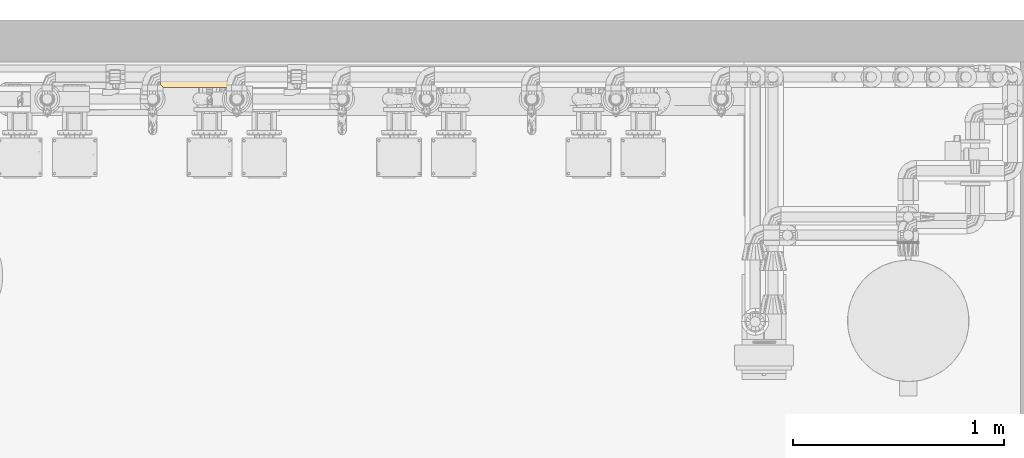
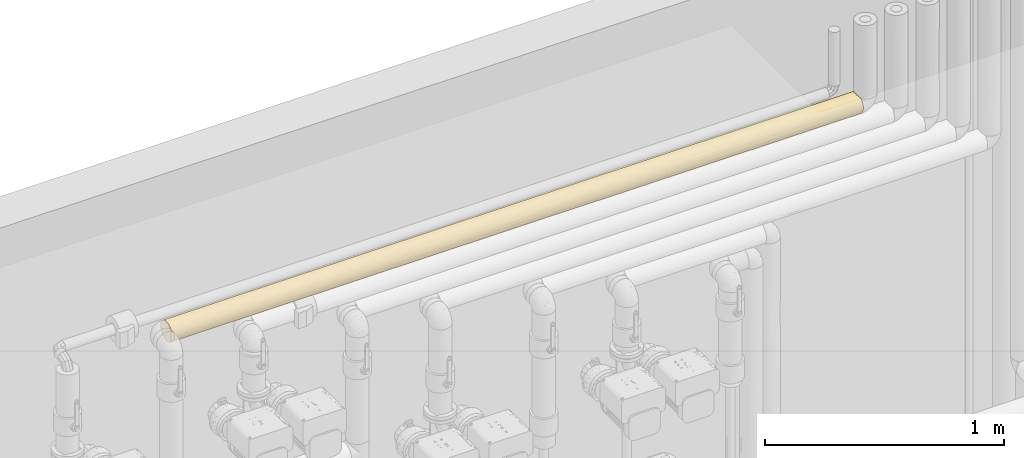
# One storey, part 4 of 94: 1 covering.
"""IFC2X3 building model written with IfcOpenShell, lengths in millimetres."""

from ifc_helpers import new_model, entity, si_unit, converted_unit, derived_unit, direction, frame, origin, place, context, subcontext, project, spatial, faceted_brep, material, element, save


model = new_model("IFC2X3")

# Units and contexts
model_context = context("Model", 3, precision=0.01, world=origin(), true_north=direction((6.123031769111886e-17, 1.0)))
body_context = subcontext(model_context, "Body", "Model", "MODEL_VIEW")
ifc_project = project(units=[si_unit("LENGTHUNIT", "METRE", prefix="MILLI"), si_unit("AREAUNIT", "SQUARE_METRE"), si_unit("VOLUMEUNIT", "CUBIC_METRE"), converted_unit("PLANEANGLEUNIT", "DEGREE", entity("IfcRatioMeasure", 0.017453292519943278), si_unit("PLANEANGLEUNIT", "RADIAN"), dimensions=[0, 0, 0, 0, 0, 0, 0]), si_unit("MASSUNIT", "GRAM", prefix="KILO"), derived_unit("MASSDENSITYUNIT", [(si_unit("MASSUNIT", "GRAM", prefix="KILO"), 1), (si_unit("LENGTHUNIT", "METRE"), -3)]), derived_unit("IONCONCENTRATIONUNIT", [(si_unit("MASSUNIT", "GRAM", prefix="KILO"), 1), (si_unit("LENGTHUNIT", "METRE"), -3)]), derived_unit("MOMENTOFINERTIAUNIT", [(si_unit("LENGTHUNIT", "METRE"), 4)]), si_unit("TIMEUNIT", "SECOND"), si_unit("FREQUENCYUNIT", "HERTZ"), si_unit("THERMODYNAMICTEMPERATUREUNIT", "DEGREE_CELSIUS"), derived_unit("THERMALTRANSMITTANCEUNIT", [(si_unit("MASSUNIT", "GRAM", prefix="KILO"), 1), (si_unit("THERMODYNAMICTEMPERATUREUNIT", "KELVIN"), -1), (si_unit("TIMEUNIT", "SECOND"), -3)]), derived_unit("THERMALCONDUCTANCEUNIT", [(si_unit("MASSUNIT", "GRAM", prefix="KILO"), 1), (si_unit("THERMODYNAMICTEMPERATUREUNIT", "KELVIN"), -1), (si_unit("TIMEUNIT", "SECOND"), -3), (si_unit("LENGTHUNIT", "METRE"), 1)]), derived_unit("VOLUMETRICFLOWRATEUNIT", [(si_unit("LENGTHUNIT", "METRE"), 3), (si_unit("TIMEUNIT", "SECOND"), -1)]), derived_unit("MASSFLOWRATEUNIT", [(si_unit("MASSUNIT", "GRAM", prefix="KILO"), 1), (si_unit("TIMEUNIT", "SECOND"), -1)]), derived_unit("ROTATIONALFREQUENCYUNIT", [(si_unit("TIMEUNIT", "SECOND"), -1)]), si_unit("ELECTRICCURRENTUNIT", "AMPERE"), si_unit("ELECTRICVOLTAGEUNIT", "VOLT"), si_unit("POWERUNIT", "WATT"), si_unit("FORCEUNIT", "NEWTON", prefix="KILO"), si_unit("ILLUMINANCEUNIT", "LUX"), si_unit("LUMINOUSFLUXUNIT", "LUMEN"), si_unit("LUMINOUSINTENSITYUNIT", "CANDELA"), derived_unit("USERDEFINED", [(si_unit("MASSUNIT", "GRAM", prefix="KILO"), -1), (si_unit("LENGTHUNIT", "METRE"), -2), (si_unit("TIMEUNIT", "SECOND"), 3), (si_unit("LUMINOUSFLUXUNIT", "LUMEN"), 1)]), derived_unit("USERDEFINED", [(si_unit("MASSUNIT", "GRAM", prefix="KILO"), 1), (si_unit("TIMEUNIT", "SECOND"), -3), (si_unit("LENGTHUNIT", "METRE"), 3), (si_unit("ELECTRICCURRENTUNIT", "AMPERE"), -2)]), derived_unit("SOUNDPOWERUNIT", [(si_unit("MASSUNIT", "GRAM", prefix="KILO"), 1), (si_unit("TIMEUNIT", "SECOND"), -3), (si_unit("LENGTHUNIT", "METRE"), 2)]), derived_unit("SOUNDPRESSUREUNIT", [(si_unit("MASSUNIT", "GRAM", prefix="KILO"), 1), (si_unit("LENGTHUNIT", "METRE"), -1), (si_unit("TIMEUNIT", "SECOND"), -2)]), derived_unit("LINEARVELOCITYUNIT", [(si_unit("LENGTHUNIT", "METRE"), 1), (si_unit("TIMEUNIT", "SECOND"), -1)]), si_unit("PRESSUREUNIT", "PASCAL"), derived_unit("USERDEFINED", [(si_unit("MASSUNIT", "GRAM", prefix="KILO"), 1), (si_unit("LENGTHUNIT", "METRE"), -2), (si_unit("TIMEUNIT", "SECOND"), -2)]), derived_unit("LINEARFORCEUNIT", [(si_unit("MASSUNIT", "GRAM", prefix="KILO"), 1), (si_unit("TIMEUNIT", "SECOND"), -2)]), derived_unit("PLANARFORCEUNIT", [(si_unit("MASSUNIT", "GRAM", prefix="KILO"), 1), (si_unit("LENGTHUNIT", "METRE"), -1), (si_unit("TIMEUNIT", "SECOND"), -2)]), derived_unit("SPECIFICHEATCAPACITYUNIT", [(si_unit("THERMODYNAMICTEMPERATUREUNIT", "KELVIN"), -1), (si_unit("LENGTHUNIT", "METRE"), 2), (si_unit("TIMEUNIT", "SECOND"), -2)]), derived_unit("HEATINGVALUEUNIT", [(si_unit("LENGTHUNIT", "METRE"), 2), (si_unit("TIMEUNIT", "SECOND"), -2)]), derived_unit("VAPORPERMEABILITYUNIT", [(si_unit("LENGTHUNIT", "METRE"), -1), (si_unit("TIMEUNIT", "SECOND"), 1)]), derived_unit("DYNAMICVISCOSITYUNIT", [(si_unit("MASSUNIT", "GRAM", prefix="KILO"), 1), (si_unit("TIMEUNIT", "SECOND"), -1), (si_unit("LENGTHUNIT", "METRE"), -1)]), derived_unit("THERMALEXPANSIONCOEFFICIENTUNIT", [(si_unit("THERMODYNAMICTEMPERATUREUNIT", "KELVIN"), -1)]), derived_unit("MODULUSOFELASTICITYUNIT", [(si_unit("MASSUNIT", "GRAM", prefix="KILO"), 1), (si_unit("LENGTHUNIT", "METRE"), -1), (si_unit("TIMEUNIT", "SECOND"), -2)]), derived_unit("ISOTHERMALMOISTURECAPACITYUNIT", [(si_unit("LENGTHUNIT", "METRE"), 3), (si_unit("MASSUNIT", "GRAM", prefix="KILO"), -1)]), derived_unit("MOISTUREDIFFUSIVITYUNIT", [(si_unit("TIMEUNIT", "SECOND"), -1), (si_unit("LENGTHUNIT", "METRE"), 2)])], contexts=[model_context])

# Site, building, storey
site_placement = place(None, origin())
site = spatial("IfcSite", under=ifc_project, at=site_placement, Name="Default", CompositionType="ELEMENT")
building_placement = place(site_placement, origin())
building = spatial("IfcBuilding", under=site, at=building_placement, CompositionType="ELEMENT")
storey_placement = place(building_placement, origin())
storey = spatial("IfcBuildingStorey", under=building, at=storey_placement, Name="Niveau 0", CompositionType="ELEMENT", Elevation=0.0)

# Covering
ifc_material = material(Name="Isolation - Laine minérale")
covering_placement = place(storey_placement, frame((-9835.741137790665, 9976.120352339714, 2799.274727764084)))
element("IfcCovering", 1, at=covering_placement, inside=storey, material=ifc_material, Name="Isolation des canalisations:Laine minérale", ObjectType="Isolation des canalisations:Laine minérale", PredefinedType="INSULATION", context=body_context, shape_type="Brep", body=[
    faceted_brep([(1.5952722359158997, 29.696487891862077, 6.323164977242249), (1.5952722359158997, 20.474956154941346, 12.012544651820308), (1.5952722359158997, 12.725272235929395, 19.584352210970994), (1.5952722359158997, 12.72527223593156, 81.86619226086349), (1.5952722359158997, 20.47495615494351, 89.43799982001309), (1.5952722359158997, 29.69648789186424, 95.12737949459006), (1.5952722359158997, 39.94049838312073, 98.65694811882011), (1.5952722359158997, 50.72527223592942, 99.85527223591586), (1.5952722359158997, 63.441051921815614, 98.18120808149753), (1.5952722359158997, 75.2902722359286, 93.27310032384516), (1.5952722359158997, 85.46542839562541, 85.4654283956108), (1.5952722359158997, 93.2731003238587, 75.29027223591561), (1.5952722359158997, 98.1812080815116, 63.44105192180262), (1.5952722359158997, 99.85527223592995, 50.72527223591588), (1.5952722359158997, 98.1812080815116, 38.00949255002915), (1.5952722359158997, 93.2731003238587, 26.160272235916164), (1.5952722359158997, 85.46542839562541, 15.985116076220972), (1.5952722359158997, 75.2902722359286, 8.177444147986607), (1.5952722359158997, 63.441051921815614, 3.26933639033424), (1.5952722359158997, 50.72527223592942, 1.5952722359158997), (1.5952722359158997, 39.94049838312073, 2.7935963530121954), (3338.5688247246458, 2.7935963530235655, 61.51004608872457), (3338.5688247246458, 1.5952722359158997, 50.72527223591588), (3338.5688247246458, 3.26933639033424, 38.00949255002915), (3338.5688247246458, 8.17744414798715, 26.16027223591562), (3338.5688247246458, 15.98511607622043, 15.985116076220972), (3338.5688247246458, 26.160272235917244, 8.177444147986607), (3338.5688247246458, 38.00949255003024, 3.2693363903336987), (3338.5688247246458, 50.72527223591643, 1.5952722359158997), (3338.5688247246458, 63.44105192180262, 3.26933639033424), (3338.5688247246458, 75.29027223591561, 8.177444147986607), (3338.5688247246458, 85.46542839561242, 15.985116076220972), (3338.5688247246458, 93.2731003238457, 26.160272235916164), (3338.5688247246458, 98.18120808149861, 38.00949255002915), (3338.5688247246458, 99.85527223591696, 50.72527223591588), (3338.5688247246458, 98.65694811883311, 61.5100460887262), (3338.5688247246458, 95.12737949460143, 71.75405657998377), (3338.5688247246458, 89.43799982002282, 80.97558831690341), (3338.5688247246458, 81.86619226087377, 88.72527223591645), (3338.5688247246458, 19.58435221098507, 88.72527223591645), (3338.5688247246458, 12.012544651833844, 80.97558831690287), (3338.5688247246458, 6.323164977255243, 71.75405657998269), (3049.218586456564, 69.52650923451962, 5.335070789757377), (3048.2288996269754, 59.13420623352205, 2.320244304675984), (2757.153778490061, 60.14398863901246, 2.5065551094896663), (840.2322503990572, 97.26385889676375, 34.979896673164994), (536.7522922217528, 96.11547355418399, 31.924034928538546), (587.213383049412, 98.95023883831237, 41.33860636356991), (3093.825531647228, 50.72527223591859, 1.5952722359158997), (2849.0822126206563, 50.72527223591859, 1.5952722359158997), (368.78493825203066, 89.70272175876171, 20.81682311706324), (3005.0753906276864, 89.70272182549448, 20.816823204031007), (245.82576684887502, 80.63372119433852, 11.747822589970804), (235.97006200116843, 96.11547361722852, 31.92403508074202), (374.41239707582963, 69.52650921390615, 5.3350707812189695), (2532.348096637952, 80.35863352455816, 11.538274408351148), (2413.4616365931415, 89.7027217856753, 20.816823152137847), (2709.26851371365, 91.46149100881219, 23.260433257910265), (2019.5798214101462, 62.167778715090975, 2.9463443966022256), (2359.5956005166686, 50.725272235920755, 1.5952722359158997), (1959.5419535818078, 50.725272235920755, 1.5952722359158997), (1870.1089884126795, 50.725272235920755, 1.5952722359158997), (2041.38201980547, 91.07935113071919, 22.701974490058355), (2048.342965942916, 95.8591244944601, 31.316710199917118), (3112.640374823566, 96.11547366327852, 31.92403519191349), (782.9179953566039, 64.51190414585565, 3.5693003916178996), (935.8521303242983, 50.72527223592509, 1.5952722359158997), (491.0818843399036, 50.72527223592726, 1.5952722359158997), (368.71026440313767, 59.86765697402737, 2.4533994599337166), (295.20277996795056, 99.10532057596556, 42.17379150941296), (2937.23254450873, 80.63372120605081, 11.747822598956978), (2849.0821676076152, 99.85527223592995, 50.72527223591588), (3043.8225824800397, 99.09651670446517, 42.12413227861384), (2749.3217440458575, 98.94149675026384, 41.29380397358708), (2123.5769078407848, 82.65274810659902, 13.383697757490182), (2287.075813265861, 70.42681749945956, 5.718539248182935), (1878.3046240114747, 73.08737199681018, 6.9794907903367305), (554.3495773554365, 80.63372114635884, 11.747822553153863), (684.5706806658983, 91.40382509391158, 23.17509551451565), (933.7189152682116, 80.72957213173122, 11.821559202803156), (1625.365533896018, 62.325218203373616, 2.9843238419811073), (246.34140633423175, 99.85527223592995, 50.72527223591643), (491.08192935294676, 99.85527223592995, 50.72527223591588), (1380.6221962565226, 99.85527223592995, 50.72527223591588), (1375.073092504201, 98.92696237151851, 41.219801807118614), (935.8520628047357, 99.85527223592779, 50.72527223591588), (2571.043632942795, 97.22890745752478, 34.87696598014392), (2306.9713773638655, 97.19786237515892, 34.786161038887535), (246.33839586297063, 50.72527223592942, 1.5952722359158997), (2703.875327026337, 69.52650919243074, 5.335070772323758), (2818.3920601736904, 96.11547365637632, 31.92403517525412), (1281.8378147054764, 81.95384252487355, 12.797270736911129), (1178.644833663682, 72.35042495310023, 6.610539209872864), (1158.2371365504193, 60.579850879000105, 2.593742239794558), (1380.6223763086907, 50.72527223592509, 1.5952722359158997), (980.5687812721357, 50.72527223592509, 1.5952722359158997), (912.4916254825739, 71.9246761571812, 6.404372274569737), (647.0912315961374, 72.67067796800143, 6.768974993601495), (2315.989209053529, 60.75953024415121, 2.6308799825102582), (1600.0998047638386, 85.6878970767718, 16.20901861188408), (1589.1398353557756, 91.82279006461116, 23.804073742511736), (1470.0553674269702, 50.72527223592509, 1.5952722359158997), (1870.1088533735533, 99.85527223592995, 50.72527223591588), (1676.4780562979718, 98.91530326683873, 41.1608690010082), (1836.1909800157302, 81.3472658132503, 12.30587076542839), (1768.949979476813, 95.49049837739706, 30.480978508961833), (2014.0562347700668, 98.74824770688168, 40.354605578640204), (1528.0867202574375, 73.06178631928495, 6.966421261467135), (1325.3915902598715, 89.58935501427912, 20.6696576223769), (2404.311927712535, 50.725272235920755, 1.5952722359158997), (1460.4306106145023, 96.34678949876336, 32.49249782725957), (2359.5955104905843, 99.85527223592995, 50.72527223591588), (1000.3564220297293, 89.70272168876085, 20.816823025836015), (1158.2371432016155, 97.38872868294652, 35.35391144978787), (2971.453833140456, 41.58303115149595, 2.4533722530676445), (2966.19414724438, 31.924035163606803, 5.3350708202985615), (3104.1940349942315, 5.335070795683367, 31.924035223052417), (6.355463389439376, 7.96508108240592, 26.5318236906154), (475.06451646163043, 6.143239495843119, 30.0806783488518), (9.859172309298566, 4.46137216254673, 34.19020495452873), (880.5691787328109, 3.809630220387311, 36.141739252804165), (883.7993462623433, 10.525552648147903, 22.480990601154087), (349.1927970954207, 2.7016734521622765, 40.35749234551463), (502.2118315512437, 1.5952722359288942, 50.72527223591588), (12.725272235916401, 1.5952722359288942, 50.72527223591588), (3044.9613154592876, 2.345223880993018, 42.17379159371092), (2803.4118070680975, 5.335070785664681, 31.92403524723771), (1225.8351742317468, 8.74583467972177, 25.201093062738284), (1284.2080402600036, 15.38333559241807, 16.597506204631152), (1540.961265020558, 10.17618083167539, 22.984902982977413), (2971.379158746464, 11.747822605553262, 20.81682325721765), (802.2732795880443, 37.30077678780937, 3.4649313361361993), (621.6573521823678, 24.92839651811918, 8.912856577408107), (372.8854164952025, 34.72089515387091, 4.275118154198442), (293.69353597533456, 24.928477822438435, 8.912806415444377), (3093.826593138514, 1.5952722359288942, 50.72527223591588), (2849.0822654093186, 1.5952722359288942, 50.72527223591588), (12.003444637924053, 2.3170998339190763, 42.334459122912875), (1060.5561201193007, 26.111086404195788, 8.205879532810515), (537.0502443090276, 11.046301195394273, 21.75397338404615), (257.53322257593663, 10.290426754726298, 22.81863913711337), (372.8840652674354, 16.390749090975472, 15.584164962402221), (641.1809510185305, 2.398563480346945, 41.877327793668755), (2540.3281563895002, 2.871090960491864, 39.601683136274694), (2321.8945841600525, 5.759657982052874, 30.930059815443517), (698.4412093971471, 16.43661370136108, 15.539411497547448), (993.4294013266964, 16.590570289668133, 15.390034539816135), (2556.960151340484, 36.91886892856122, 3.5750853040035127), (3095.0981582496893, 20.816823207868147, 11.74782264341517), (1364.0246132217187, 4.447885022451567, 34.227989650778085), (991.6983908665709, 1.5952722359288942, 50.72527223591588), (2170.9848487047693, 28.783552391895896, 6.767134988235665), (2413.0963497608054, 20.56077371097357, 11.945639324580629), (2084.757949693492, 19.67401699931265, 12.651968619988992), (1970.6715094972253, 1.5952722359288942, 50.72527223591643), (2190.2744619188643, 2.5029611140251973, 41.32497383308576), (2409.8768874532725, 1.5952722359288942, 50.72527223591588), (2657.1178108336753, 10.03373228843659, 23.194281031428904), (2787.175486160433, 20.816823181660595, 11.747822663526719), (1841.1073849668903, 26.327820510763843, 8.08114896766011), (1714.7985680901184, 38.355221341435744, 3.178045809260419), (2181.926964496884, 40.68581691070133, 2.6319646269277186), (2594.121591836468, 27.469915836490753, 7.447734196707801), (1501.2949108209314, 26.21732771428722, 8.144554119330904), (1231.9687097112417, 38.57819030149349, 3.120594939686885), (1559.6657217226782, 18.151898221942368, 13.945764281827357), (1889.8396254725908, 9.202084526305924, 24.465383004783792), (1821.7551671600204, 14.7176678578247, 17.300590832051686), (2081.707772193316, 13.140767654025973, 19.08412947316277), (1910.6318407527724, 2.476327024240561, 41.46264917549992), (1668.7509421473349, 4.093375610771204, 35.25843296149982), (1962.6174298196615, 5.1087231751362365, 32.48007144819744), (2786.585094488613, 2.337832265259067, 42.215715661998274), (2342.856462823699, 11.747822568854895, 20.816823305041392), (1481.184950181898, 1.5952722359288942, 50.72527223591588), (2976.06470919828, 4.275118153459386, 66.7296493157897), (349.1927969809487, 2.701673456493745, 61.09305214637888), (9.859172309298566, 4.46137216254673, 67.26033951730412), (12.003444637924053, 2.3170998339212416, 59.116085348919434), (698.4412084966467, 16.436613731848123, 85.91113300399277), (621.6573510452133, 24.92839655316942, 92.53768791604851), (372.88406483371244, 16.390749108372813, 85.86637952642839), (2056.0901809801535, 42.0065785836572, 99.07546645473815), (2348.4667708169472, 50.725272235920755, 99.85527223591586), (1858.9791202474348, 50.72527223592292, 99.85527223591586), (1369.49146967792, 50.72527223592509, 99.85527223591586), (1614.2355345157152, 42.0065785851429, 99.07546645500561), (372.88541565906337, 34.72089518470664, 97.17542632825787), (3333.8086335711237, 26.531823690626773, 93.48546338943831), (2963.8700148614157, 22.7544586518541, 91.11574744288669), (2190.2744613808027, 2.1823126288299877, 58.29745637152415), (1842.4210985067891, 3.289321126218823, 63.51540289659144), (2900.684889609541, 14.654071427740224, 84.08131175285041), (2740.6069866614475, 8.912856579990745, 76.52214795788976), (2393.2548375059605, 9.318440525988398, 77.16825216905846), (2577.454871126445, 3.760863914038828, 65.15098715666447), (289.54073042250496, 24.928478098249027, 92.53773822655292), (883.7993452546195, 10.525552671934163, 78.96955390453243), (475.06451613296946, 6.14323950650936, 71.36986614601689), (880.5691783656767, 3.8096302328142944, 65.3088052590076), (2591.925865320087, 18.668203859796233, 87.9556532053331), (2657.217471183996, 29.989501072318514, 95.26497019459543), (2987.3301441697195, 33.10054900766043, 96.5851242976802), (3330.3049246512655, 34.190204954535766, 96.98917230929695), (2352.291422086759, 37.6542002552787, 98.0845794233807), (2742.5337412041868, 40.15484762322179, 98.70467431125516), (641.1809509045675, 2.398563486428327, 59.5732167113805), (895.4819827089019, 28.08180394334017, 94.32607777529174), (1116.751392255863, 19.462002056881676, 88.6246764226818), (1206.8055118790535, 2.5630227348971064, 60.42860274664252), (1461.91328855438, 2.370401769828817, 59.417993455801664), (1484.8498109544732, 4.66774349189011, 67.82676181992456), (491.07967557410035, 50.72527223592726, 99.85527223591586), (257.5332224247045, 10.29042676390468, 78.63190534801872), (537.0502439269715, 11.046301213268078, 79.69657111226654), (3082.6982466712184, 50.72527223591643, 99.85527223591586), (3007.216167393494, 41.930825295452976, 99.06174503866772), (3328.1606523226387, 42.33445912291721, 99.13344463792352), (6.355463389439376, 7.96508108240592, 74.91872078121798), (768.5571233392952, 36.438222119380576, 97.73204939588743), (1858.978861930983, 33.56465625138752, 96.76080372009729), (2299.031496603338, 25.632446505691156, 92.96396299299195), (3060.7627924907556, 8.91285656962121, 76.5221479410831), (1024.3869446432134, 41.305040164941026, 98.94369327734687), (930.2839490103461, 50.72527223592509, 99.85527223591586), (1317.2575714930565, 40.73883770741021, 98.8296174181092), (1494.9943517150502, 33.83836133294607, 96.86190778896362), (1304.5001489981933, 10.7263384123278, 79.25319177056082), (2209.9521400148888, 15.584164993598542, 85.05979541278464), (2079.9777586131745, 9.515178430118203, 77.47382487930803), (1937.1890610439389, 22.40717476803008, 90.87302753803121), (2190.2744609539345, 4.955486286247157, 68.58258429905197), (1154.7841132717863, 5.874606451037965, 70.77956550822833), (1673.2325242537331, 18.11023293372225, 87.46783762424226), (1514.7801650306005, 25.394473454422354, 92.82167983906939), (1393.778269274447, 18.446547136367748, 87.76364161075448), (1149.8896372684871, 32.63648095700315, 96.40406961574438), (1758.89919835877, 11.27826650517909, 80.01162808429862), (1858.495044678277, 6.641454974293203, 72.41337855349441), (3327.4388247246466, 50.72527223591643, 99.85527223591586), (2837.954421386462, 50.72527223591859, 99.85527223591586), (2967.2786815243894, 97.17542633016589, 66.72964928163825), (2718.506746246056, 92.5376879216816, 76.52214790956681), (3046.470561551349, 92.53773807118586, 76.5220666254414), (2967.2800324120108, 85.86637953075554, 85.05979535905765), (2641.722888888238, 85.91113300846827, 85.01393073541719), (2803.1138535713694, 79.69657112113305, 90.40424325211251), (3328.1606523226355, 59.11608534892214, 99.13344463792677), (2990.97130018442, 61.09305214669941, 98.74887101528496), (2537.8908202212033, 97.98561315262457, 64.14976762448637), (2114.3289287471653, 76.24945144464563, 92.704709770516), (2346.7346980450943, 86.06050997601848, 84.85997413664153), (2055.956059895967, 84.85303834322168, 86.06720880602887), (295.20278183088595, 59.27675289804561, 99.10532058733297), (235.9700626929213, 69.5265092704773, 96.11547366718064), (368.784938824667, 80.63372124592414, 89.70272184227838), (1018.2695155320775, 70.52048472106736, 95.69088646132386), (536.7522912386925, 69.52650927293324, 96.11547366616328), (799.8359419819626, 61.84886138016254, 98.57945350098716), (1799.2028353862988, 78.46564144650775, 91.27436366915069), (3330.304924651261, 67.26033951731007, 96.98917230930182), (2865.0995809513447, 71.36986615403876, 95.30730496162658), (2459.5949189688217, 65.3088052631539, 97.64091423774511), (2456.3647517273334, 78.96955391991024, 90.92499178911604), (2279.607979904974, 93.24466498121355, 75.33945799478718), (368.7102629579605, 98.99717222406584, 59.86751329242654), (373.969950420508, 96.11547366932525, 69.52650926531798), (1976.1394831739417, 67.22255487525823, 97.0026594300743), (3082.6308747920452, 78.63190535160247, 91.16011770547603), (3333.8086335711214, 74.91872078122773, 93.48546338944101), (783.2039436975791, 97.87545921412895, 64.53167538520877), (245.06593937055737, 89.70272184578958, 80.63372124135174), (2698.983146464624, 59.57321670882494, 99.05198098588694), (1169.1792513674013, 94.68340957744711, 72.66699189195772), (927.0677498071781, 89.50490523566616, 80.88977064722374), (1255.406151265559, 88.7985759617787, 81.77652733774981), (1149.889636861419, 60.12557066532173, 98.94758335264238), (683.0462876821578, 78.25626351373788, 91.41681213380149), (552.9886120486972, 89.70272184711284, 80.6337212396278), (1499.0567159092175, 93.36939562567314, 75.12272374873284), (1625.3655351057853, 98.27249868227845, 63.09532305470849), (1158.237137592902, 98.8185798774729, 60.76472740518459), (746.0425063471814, 94.00281033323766, 73.98062852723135), (1838.8691905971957, 93.30599039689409, 75.23321668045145), (2108.195392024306, 98.32994955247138, 62.87235409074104), (1780.4983785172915, 87.50478024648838, 83.29864618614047), (1450.3244715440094, 76.98516154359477, 92.24845989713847), (1518.408933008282, 84.14995369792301, 86.73287656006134), (1258.456327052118, 82.36641512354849, 88.30977671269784), (1429.5322584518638, 59.98789534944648, 98.97421743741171), (1671.4131551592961, 66.1921116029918, 97.35716883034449), (1377.546668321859, 68.97047308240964, 96.34182127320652), (553.5790033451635, 59.23482883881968, 99.11271220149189), (997.3076365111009, 80.63372124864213, 89.70272184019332)], [[[0, 1, 2, 3, 4, 5, 6, 7, 8, 9, 10, 11, 12, 13, 14, 15, 16, 17, 18, 19, 20]], [[21, 22, 23, 24, 25, 26, 27, 28, 29, 30, 31, 32, 33, 34, 35, 36, 37, 38, 39, 40, 41]], [[42, 43, 44]], [[45, 46, 47]], [[30, 29, 42]], [[43, 28, 48, 49]], [[16, 15, 50]], [[32, 31, 51]], [[16, 52, 17]], [[53, 15, 14]], [[15, 53, 50]], [[18, 17, 54]], [[55, 56, 57]], [[58, 59, 60, 61]], [[56, 62, 63]], [[64, 33, 32]], [[65, 66, 67]], [[68, 18, 54]], [[69, 46, 53]], [[70, 51, 31]], [[30, 70, 31]], [[71, 72, 73]], [[62, 56, 74]], [[75, 76, 74]], [[77, 78, 79]], [[30, 42, 70]], [[58, 80, 76]], [[69, 13, 81, 82]], [[83, 84, 85]], [[78, 77, 50]], [[86, 56, 87]], [[33, 64, 72]], [[52, 54, 17]], [[88, 19, 18]], [[56, 55, 74]], [[55, 70, 89]], [[42, 44, 89]], [[51, 57, 90]], [[79, 91, 92]], [[54, 65, 68]], [[93, 94, 95, 66]], [[88, 68, 67]], [[18, 68, 88]], [[92, 96, 79]], [[77, 97, 54]], [[68, 65, 67]], [[65, 96, 93]], [[78, 50, 46]], [[52, 50, 77]], [[70, 55, 57]], [[33, 72, 34]], [[64, 51, 90]], [[43, 42, 29]], [[70, 42, 89]], [[75, 55, 89]], [[55, 75, 74]], [[98, 89, 44]], [[75, 58, 76]], [[99, 100, 62]], [[80, 61, 101, 94]], [[102, 103, 83]], [[74, 76, 104]], [[105, 103, 106]], [[107, 76, 80]], [[99, 91, 108]], [[93, 80, 94]], [[80, 93, 107]], [[28, 43, 29]], [[43, 49, 44]], [[44, 49, 109, 59]], [[44, 59, 98]], [[62, 74, 104]], [[110, 103, 105]], [[106, 63, 105]], [[111, 71, 73]], [[69, 47, 46]], [[87, 106, 111]], [[108, 100, 99]], [[112, 78, 45]], [[98, 58, 75]], [[80, 58, 61]], [[91, 107, 92]], [[104, 107, 99]], [[50, 52, 16]], [[54, 52, 77]], [[65, 93, 66]], [[93, 92, 107]], [[98, 75, 89]], [[59, 58, 98]], [[69, 53, 14]], [[50, 53, 46]], [[13, 69, 14]], [[69, 82, 47]], [[82, 85, 47]], [[45, 85, 113]], [[85, 45, 47]], [[112, 45, 113]], [[51, 64, 32]], [[90, 73, 72]], [[90, 72, 64]], [[34, 72, 71]], [[90, 86, 73]], [[73, 86, 111]], [[86, 90, 57]], [[111, 86, 87]], [[112, 108, 91]], [[97, 96, 65]], [[112, 91, 79]], [[107, 91, 99]], [[112, 113, 108]], [[100, 110, 105]], [[110, 108, 113]], [[62, 100, 105]], [[108, 110, 100]], [[84, 110, 113]], [[103, 110, 84]], [[106, 103, 102]], [[111, 106, 102]], [[106, 87, 63]], [[85, 84, 113]], [[103, 84, 83]], [[56, 63, 87]], [[62, 105, 63]], [[79, 97, 77]], [[65, 54, 97]], [[79, 96, 97]], [[93, 96, 92]], [[45, 78, 46]], [[78, 112, 79]], [[57, 51, 70]], [[86, 57, 56]], [[107, 104, 76]], [[62, 104, 99]], [[114, 27, 115]], [[116, 24, 23]], [[117, 118, 119]], [[120, 118, 121]], [[122, 123, 124]], [[125, 126, 116]], [[127, 128, 129]], [[116, 130, 24]], [[131, 132, 133]], [[24, 130, 25]], [[122, 119, 118]], [[0, 134, 1]], [[131, 133, 67]], [[125, 22, 135, 136]], [[124, 137, 122]], [[138, 132, 131]], [[139, 140, 141]], [[0, 20, 133]], [[142, 123, 122]], [[141, 2, 1]], [[126, 143, 144]], [[141, 145, 139]], [[132, 134, 133]], [[141, 134, 132]], [[146, 128, 127]], [[49, 147, 109]], [[25, 148, 26]], [[20, 19, 88, 67]], [[145, 141, 132]], [[120, 149, 150]], [[151, 152, 153]], [[48, 28, 27]], [[154, 155, 156]], [[157, 158, 130]], [[152, 158, 157]], [[146, 121, 145]], [[26, 148, 115]], [[115, 27, 26]], [[140, 117, 2]], [[20, 67, 133]], [[131, 67, 66, 95]], [[151, 159, 160]], [[115, 147, 114]], [[161, 60, 59, 109]], [[48, 114, 49]], [[27, 114, 48]], [[162, 158, 152]], [[162, 115, 158]], [[114, 147, 49]], [[161, 147, 151]], [[157, 130, 126]], [[148, 130, 158]], [[163, 138, 164]], [[164, 95, 94, 101]], [[164, 138, 131]], [[160, 101, 61, 60]], [[138, 163, 128]], [[163, 165, 128]], [[166, 167, 168]], [[167, 166, 129]], [[169, 170, 171]], [[153, 159, 151]], [[153, 168, 167]], [[156, 143, 172]], [[159, 165, 163]], [[95, 164, 131]], [[164, 101, 160]], [[160, 60, 161]], [[164, 160, 163]], [[120, 121, 127]], [[142, 150, 123]], [[147, 161, 109]], [[155, 154, 169]], [[160, 161, 151]], [[130, 148, 25]], [[115, 148, 158]], [[1, 134, 141]], [[0, 133, 134]], [[146, 132, 138]], [[139, 121, 118]], [[132, 146, 145]], [[138, 128, 146]], [[121, 139, 145]], [[140, 118, 117]], [[141, 140, 2]], [[118, 140, 139]], [[166, 144, 171]], [[143, 156, 155]], [[144, 143, 155]], [[126, 125, 172]], [[171, 144, 155]], [[144, 173, 157]], [[125, 116, 23]], [[130, 116, 126]], [[22, 125, 23]], [[125, 136, 172]], [[156, 172, 136]], [[126, 172, 143]], [[119, 122, 137]], [[142, 118, 120]], [[118, 142, 122]], [[150, 142, 120]], [[173, 168, 153]], [[162, 151, 147]], [[173, 153, 152]], [[167, 165, 159]], [[167, 159, 153]], [[160, 159, 163]], [[144, 168, 173]], [[168, 144, 166]], [[166, 170, 129]], [[129, 128, 165]], [[170, 166, 171]], [[127, 129, 149]], [[120, 127, 149]], [[146, 127, 121]], [[151, 162, 152]], [[115, 162, 147]], [[144, 157, 126]], [[157, 173, 152]], [[171, 155, 169]], [[174, 150, 149]], [[129, 165, 167]], [[154, 174, 169]], [[170, 174, 149]], [[174, 170, 169]], [[129, 170, 149]], [[175, 135, 21]], [[176, 177, 178]], [[179, 180, 181]], [[182, 183, 184, 185, 186]], [[5, 187, 6]], [[39, 188, 189]], [[190, 191, 154]], [[39, 189, 192]], [[193, 194, 195]], [[181, 196, 4]], [[197, 198, 199]], [[200, 189, 201]], [[201, 189, 202]], [[203, 202, 188]], [[204, 205, 183]], [[206, 150, 199]], [[189, 188, 202]], [[5, 196, 187]], [[207, 179, 208]], [[209, 210, 211]], [[6, 212, 7]], [[213, 198, 214]], [[215, 216, 217]], [[176, 178, 124]], [[187, 196, 180]], [[218, 177, 198]], [[124, 123, 176]], [[3, 181, 4]], [[207, 219, 180]], [[204, 220, 221]], [[213, 3, 218]], [[41, 40, 222]], [[223, 185, 224]], [[186, 225, 226]], [[195, 175, 193]], [[135, 22, 21]], [[201, 221, 200]], [[192, 193, 222]], [[41, 222, 175]], [[175, 21, 41]], [[214, 197, 179]], [[187, 180, 219]], [[212, 6, 187]], [[185, 223, 225]], [[187, 219, 212]], [[208, 197, 227]], [[194, 228, 229]], [[135, 175, 136]], [[156, 190, 154]], [[175, 195, 136]], [[230, 228, 221]], [[231, 194, 229]], [[209, 232, 199]], [[233, 234, 235]], [[221, 228, 200]], [[194, 200, 228]], [[192, 200, 193]], [[190, 195, 231]], [[136, 195, 156]], [[40, 39, 192]], [[175, 222, 193]], [[40, 192, 222]], [[200, 192, 189]], [[225, 223, 236]], [[212, 219, 224]], [[204, 221, 201]], [[230, 221, 220]], [[205, 201, 202]], [[204, 182, 220]], [[186, 226, 220]], [[237, 228, 230]], [[230, 220, 234]], [[211, 191, 238]], [[208, 234, 236]], [[233, 230, 234]], [[207, 236, 219]], [[232, 197, 199]], [[225, 186, 185]], [[182, 186, 220]], [[198, 176, 206]], [[199, 150, 209]], [[211, 237, 227]], [[227, 237, 233]], [[217, 239, 215]], [[203, 217, 216]], [[183, 205, 240]], [[204, 201, 205]], [[216, 240, 205]], [[202, 216, 205]], [[226, 236, 234]], [[224, 219, 223]], [[219, 236, 223]], [[236, 226, 225]], [[220, 226, 234]], [[216, 202, 203]], [[240, 216, 215]], [[4, 196, 5]], [[180, 196, 181]], [[214, 179, 181]], [[208, 179, 197]], [[181, 3, 213]], [[197, 214, 198]], [[198, 213, 218]], [[181, 213, 214]], [[174, 154, 191]], [[174, 209, 150]], [[232, 211, 227]], [[211, 232, 209]], [[197, 232, 227]], [[206, 176, 123]], [[177, 176, 198]], [[150, 206, 123]], [[198, 206, 199]], [[195, 190, 156]], [[191, 190, 231]], [[231, 229, 238]], [[211, 210, 191]], [[195, 194, 231]], [[200, 194, 193]], [[228, 237, 229]], [[238, 229, 237]], [[211, 238, 237]], [[231, 238, 191]], [[179, 207, 180]], [[208, 236, 207]], [[234, 208, 235]], [[237, 230, 233]], [[208, 227, 235]], [[227, 233, 235]], [[183, 182, 204]], [[209, 174, 210]], [[191, 210, 174]], [[241, 242, 243]], [[244, 38, 37]], [[244, 245, 246]], [[239, 247, 248]], [[71, 249, 241]], [[250, 251, 252]], [[36, 35, 241]], [[7, 212, 253]], [[36, 243, 37]], [[9, 254, 255]], [[256, 257, 258]], [[250, 252, 259]], [[244, 243, 242]], [[254, 9, 8]], [[248, 260, 261]], [[262, 261, 263]], [[255, 10, 9]], [[264, 242, 249]], [[245, 244, 242]], [[265, 12, 266]], [[262, 267, 183]], [[253, 257, 254]], [[246, 268, 244]], [[261, 260, 269]], [[85, 82, 270]], [[10, 271, 11]], [[272, 240, 248]], [[273, 274, 275]], [[248, 240, 215, 239]], [[249, 242, 241]], [[35, 34, 71]], [[81, 13, 12]], [[185, 276, 224]], [[277, 278, 255]], [[274, 278, 277]], [[251, 263, 245]], [[11, 271, 266]], [[266, 12, 11]], [[268, 269, 38]], [[35, 71, 241]], [[249, 71, 111]], [[273, 279, 280]], [[266, 270, 265]], [[281, 83, 85]], [[81, 265, 82]], [[12, 265, 81]], [[282, 278, 274]], [[282, 266, 278]], [[265, 270, 82]], [[281, 270, 273]], [[277, 255, 257]], [[271, 255, 278]], [[283, 264, 284]], [[284, 111, 102]], [[284, 264, 249]], [[83, 280, 102]], [[264, 283, 252]], [[283, 285, 252]], [[286, 287, 288]], [[287, 286, 259]], [[289, 290, 291]], [[275, 279, 273]], [[275, 288, 287]], [[224, 258, 292]], [[279, 285, 283]], [[111, 284, 249]], [[284, 102, 280]], [[280, 83, 281]], [[284, 280, 283]], [[262, 263, 250]], [[272, 183, 240]], [[270, 281, 85]], [[276, 185, 289]], [[280, 281, 273]], [[255, 271, 10]], [[266, 271, 278]], [[37, 243, 244]], [[36, 241, 243]], [[251, 242, 264]], [[246, 263, 261]], [[242, 251, 245]], [[264, 252, 251]], [[263, 246, 245]], [[268, 261, 269]], [[244, 268, 38]], [[261, 268, 246]], [[286, 256, 291]], [[258, 224, 276]], [[256, 258, 276]], [[257, 253, 292]], [[291, 256, 276]], [[256, 293, 277]], [[253, 254, 8]], [[255, 254, 257]], [[7, 253, 8]], [[253, 212, 292]], [[224, 292, 212]], [[257, 292, 258]], [[260, 248, 247]], [[272, 261, 262]], [[261, 272, 248]], [[183, 272, 262]], [[293, 288, 275]], [[282, 273, 270]], [[293, 275, 274]], [[287, 285, 279]], [[287, 279, 275]], [[280, 279, 283]], [[256, 288, 293]], [[288, 256, 286]], [[286, 290, 259]], [[259, 252, 285]], [[290, 286, 291]], [[250, 259, 267]], [[262, 250, 267]], [[251, 250, 263]], [[273, 282, 274]], [[266, 282, 270]], [[256, 277, 257]], [[277, 293, 274]], [[291, 276, 289]], [[184, 183, 267]], [[259, 285, 287]], [[185, 184, 289]], [[290, 184, 267]], [[184, 290, 289]], [[259, 290, 267]], [[2, 117, 119, 137, 124, 178, 177, 218, 3]], [[239, 217, 203, 188, 39, 38, 269, 260, 247]]]),
])

save(model, "model.ifc")
